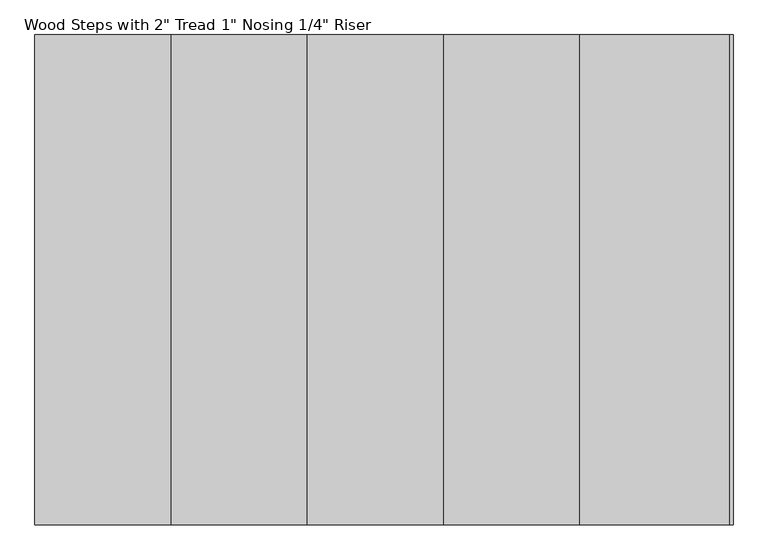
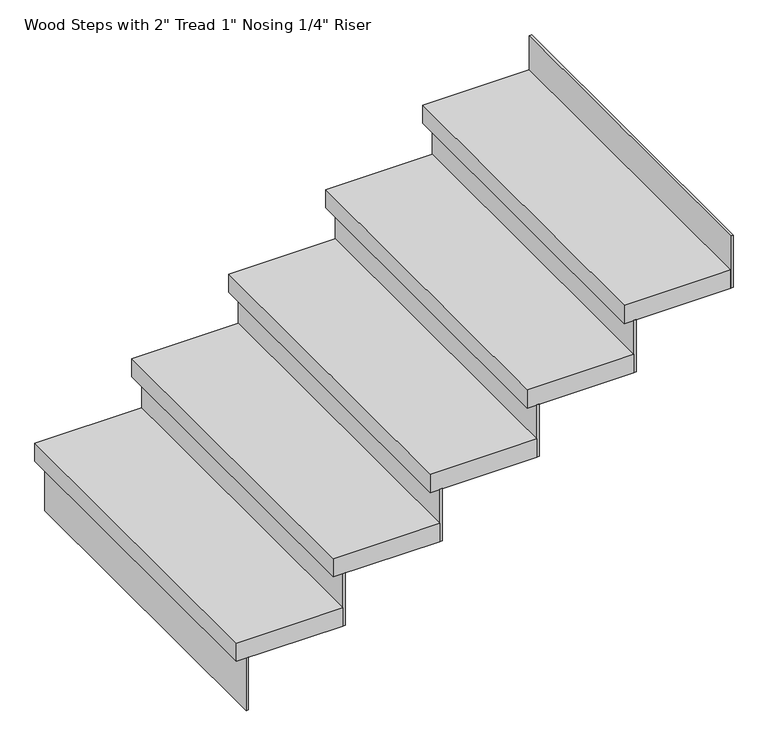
"""IFC4 building model written with IfcOpenShell, lengths in millimetres: stair flight geometry."""

from ifc_helpers import new_model, si_unit, frame, origin, place, context, project, spatial, polyline, outline, extrude, source, transform, mapped, element, save


def stair_flight_3d462d87(model_context):
    return source(origin(), model_context, "Body", "SweptSolid", [
        extrude(outline(polyline([(-31217.12137, 14905.6177722), (-31223.47137, 14905.6177722), (-31223.47137, 15820.0177722), (-31217.12137, 15820.0177722), (-31217.12137, 14905.6177722)])), frame((0.0, 0.0, 2126.3428571), z_axis=(0.0, 0.0, 1.0), x_axis=(1.0, 0.0, 0.0)), (0.0, 0.0, 1.0), 145.1428571),
        extrude(outline(polyline([(-30969.47137, 15820.0177722), (-30969.47137, 14905.6177722), (-31248.87137, 14905.6177722), (-31248.87137, 15820.0177722), (-30969.47137, 15820.0177722)])), frame((0.0, 0.0, 2271.4857143), z_axis=(0.0, 0.0, 1.0), x_axis=(1.0, 0.0, 0.0)), (0.0, 0.0, 1.0), 50.8),
        extrude(outline(polyline([(-30963.12137, 14905.6177722), (-30969.47137, 14905.6177722), (-30969.47137, 15820.0177722), (-30963.12137, 15820.0177722), (-30963.12137, 14905.6177722)])), frame((0.0, 0.0, 2271.4857143), z_axis=(0.0, 0.0, 1.0), x_axis=(1.0, 0.0, 0.0)), (0.0, 0.0, 1.0), 145.1428571),
        extrude(outline(polyline([(-30715.47137, 15820.0177722), (-30715.47137, 14905.6177722), (-30994.87137, 14905.6177722), (-30994.87137, 15820.0177722), (-30715.47137, 15820.0177722)])), frame((0.0, 0.0, 2416.6285714), z_axis=(0.0, 0.0, 1.0), x_axis=(1.0, 0.0, 0.0)), (0.0, 0.0, 1.0), 50.8),
        extrude(outline(polyline([(-30709.12137, 14905.6177722), (-30715.47137, 14905.6177722), (-30715.47137, 15820.0177722), (-30709.12137, 15820.0177722), (-30709.12137, 14905.6177722)])), frame((0.0, 0.0, 2416.6285714), z_axis=(0.0, 0.0, 1.0), x_axis=(1.0, 0.0, 0.0)), (0.0, 0.0, 1.0), 145.1428571),
        extrude(outline(polyline([(-30461.47137, 15820.0177722), (-30461.47137, 14905.6177722), (-30740.87137, 14905.6177722), (-30740.87137, 15820.0177722), (-30461.47137, 15820.0177722)])), frame((0.0, 0.0, 2561.7714286), z_axis=(0.0, 0.0, 1.0), x_axis=(1.0, 0.0, 0.0)), (0.0, 0.0, 1.0), 50.8),
        extrude(outline(polyline([(-30455.12137, 14905.6177722), (-30461.47137, 14905.6177722), (-30461.47137, 15820.0177722), (-30455.12137, 15820.0177722), (-30455.12137, 14905.6177722)])), frame((0.0, 0.0, 2561.7714286), z_axis=(0.0, 0.0, 1.0), x_axis=(1.0, 0.0, 0.0)), (0.0, 0.0, 1.0), 145.1428571),
        extrude(outline(polyline([(-30207.47137, 15820.0177722), (-30207.47137, 14905.6177722), (-30486.87137, 14905.6177722), (-30486.87137, 15820.0177722), (-30207.47137, 15820.0177722)])), frame((0.0, 0.0, 2706.9142857), z_axis=(0.0, 0.0, 1.0), x_axis=(1.0, 0.0, 0.0)), (0.0, 0.0, 1.0), 50.8),
        extrude(outline(polyline([(-30201.12137, 14905.6177722), (-30207.47137, 14905.6177722), (-30207.47137, 15820.0177722), (-30201.12137, 15820.0177722), (-30201.12137, 14905.6177722)])), frame((0.0, 0.0, 2706.9142857), z_axis=(0.0, 0.0, 1.0), x_axis=(1.0, 0.0, 0.0)), (0.0, 0.0, 1.0), 145.1428571),
        extrude(outline(polyline([(-29947.12137, 14905.6177722), (-29953.47137, 14905.6177722), (-29953.47137, 15820.0177722), (-29947.12137, 15820.0177722), (-29947.12137, 14905.6177722)])), frame((0.0, 0.0, 2852.0571429), z_axis=(0.0, 0.0, 1.0), x_axis=(1.0, 0.0, 0.0)), (0.0, 0.0, 1.0), 145.1428571),
        extrude(outline(polyline([(-29953.47137, 15820.0177722), (-29953.47137, 14905.6177722), (-30232.87137, 14905.6177722), (-30232.87137, 15820.0177722), (-29953.47137, 15820.0177722)])), frame((0.0, 0.0, 2852.0571429), z_axis=(0.0, 0.0, 1.0), x_axis=(1.0, 0.0, 0.0)), (0.0, 0.0, 1.0), 50.8),
    ])


if __name__ == "__main__":
    model = new_model("IFC4")
    model_context = context("Model", 3, world=origin())
    ifc_project = project(units=[si_unit("LENGTHUNIT", "METRE", prefix="MILLI")], contexts=[model_context])
    site = spatial("IfcSite", under=ifc_project)
    building = spatial("IfcBuilding", under=site)
    placement = place(None, origin())
    stair_flight_shape = stair_flight_3d462d87(model_context)
    element("IfcStairFlight", 1, ObjectType="Wood Steps with 2\" Tread 1\" Nosing 1/4\" Riser", at=placement, inside=building, context=model_context, shape_type="MappedRepresentation", body=[
        mapped(stair_flight_shape, transform((0.0, 0.0, 0.0), x_axis=(1.0, 0.0, 0.0), y_axis=(0.0, 1.0, 0.0), z_axis=(0.0, 0.0, 1.0))),
    ])
    save(model, "model.ifc")
